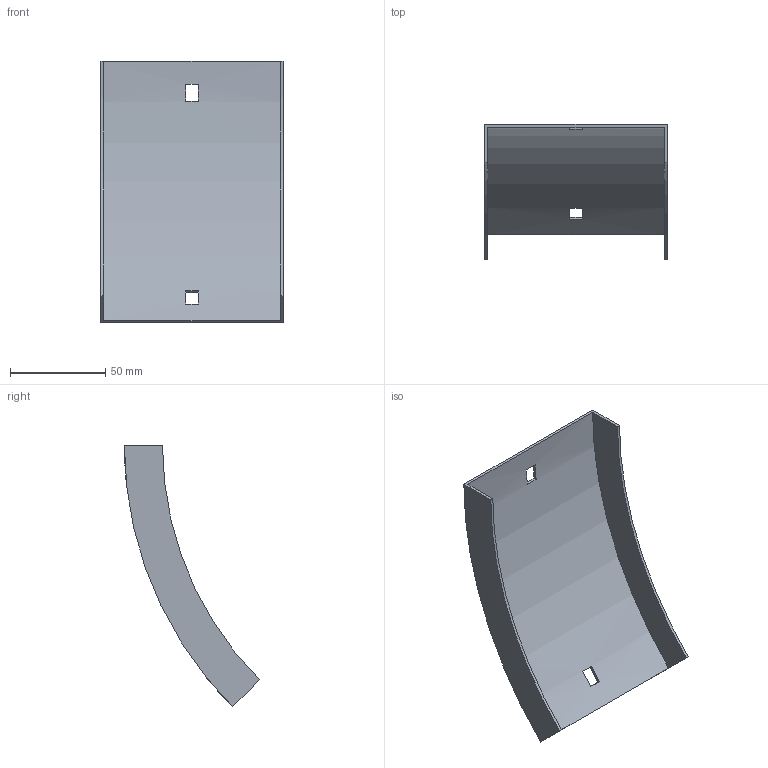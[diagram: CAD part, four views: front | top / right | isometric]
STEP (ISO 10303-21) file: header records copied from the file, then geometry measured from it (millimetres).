
FILE_DESCRIPTION (( 'STEP AP214' ), '1' );
FILE_NAME ('34N1I092.step', '2025-02-21T09:16:15', ( '' ), ( '' ), 'SwSTEP 2.0', 'SolidWorks 2023', '' );
FILE_SCHEMA (( 'AUTOMOTIVE_DESIGN' ));
Length unit declared in the file: millimetre
Products named in the file (1): 34N1I092
Bounding box: 95.5 x 70.96 x 137.18 mm (x, y, z)
Volume: 29553.9 mm3; surface area: 40307.7 mm2
Topology: 1 solids, 1 shells, 18 faces, 48 edges, 32 vertices
Faces by surface type: plane 14, cylinder 4
Entity records: 599 total; most frequent: DIRECTION 102, CARTESIAN_POINT 99, ORIENTED_EDGE 96, EDGE_CURVE 48, AXIS2_PLACEMENT_3D 35, LINE 32, VECTOR 32, VERTEX_POINT 32
